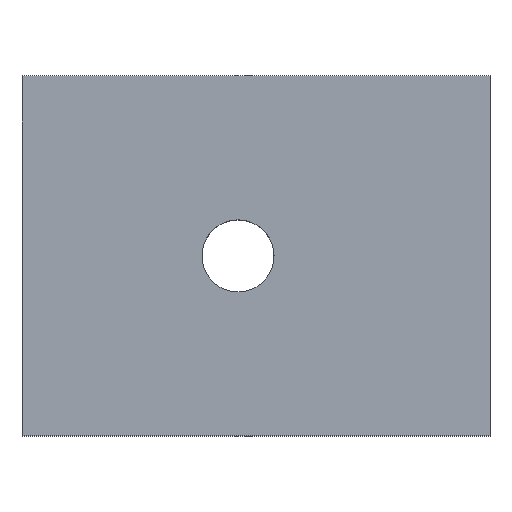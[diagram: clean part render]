
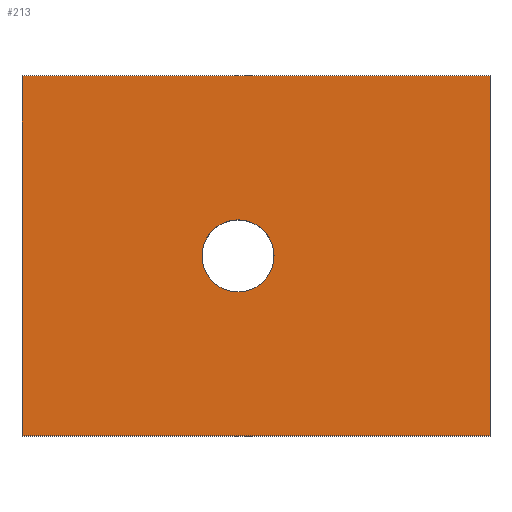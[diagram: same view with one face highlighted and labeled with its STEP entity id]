
A CAD part, top view. The second image highlights one B-rep face of the part: STEP entity #213.
In plain terms, the highlighted planar face has unit normal (0, 0, 1).
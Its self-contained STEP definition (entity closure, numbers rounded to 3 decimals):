
#24 = VERTEX_POINT('',#25);
#25 = CARTESIAN_POINT('',(0.,0.,4.));
#32 = PLANE('',#33);
#33 = AXIS2_PLACEMENT_3D('',#34,#35,#36);
#34 = CARTESIAN_POINT('',(0.,0.,0.));
#35 = DIRECTION('',(1.,0.,-0.));
#36 = DIRECTION('',(0.,0.,1.));
#44 = PLANE('',#45);
#45 = AXIS2_PLACEMENT_3D('',#46,#47,#48);
#46 = CARTESIAN_POINT('',(0.,0.,0.));
#47 = DIRECTION('',(-0.,1.,0.));
#48 = DIRECTION('',(0.,0.,1.));
#85 = VERTEX_POINT('',#86);
#86 = CARTESIAN_POINT('',(0.,10.,4.));
#100 = PLANE('',#101);
#101 = AXIS2_PLACEMENT_3D('',#102,#103,#104);
#102 = CARTESIAN_POINT('',(0.,10.,0.));
#103 = DIRECTION('',(-0.,1.,0.));
#104 = DIRECTION('',(0.,0.,1.));
#112 = EDGE_CURVE('',#24,#85,#113,.T.);
#113 = SURFACE_CURVE('',#114,(#118,#125),.PCURVE_S1.);
#114 = LINE('',#115,#116);
#115 = CARTESIAN_POINT('',(0.,0.,4.));
#116 = VECTOR('',#117,1.);
#117 = DIRECTION('',(-0.,1.,0.));
#118 = PCURVE('',#32,#119);
#119 = DEFINITIONAL_REPRESENTATION('',(#120),#124);
#120 = LINE('',#121,#122);
#121 = CARTESIAN_POINT('',(4.,0.));
#122 = VECTOR('',#123,1.);
#123 = DIRECTION('',(0.,-1.));
#124 = ( GEOMETRIC_REPRESENTATION_CONTEXT(2) 
PARAMETRIC_REPRESENTATION_CONTEXT() REPRESENTATION_CONTEXT('2D SPACE',''
  ) );
#125 = PCURVE('',#126,#131);
#126 = PLANE('',#127);
#127 = AXIS2_PLACEMENT_3D('',#128,#129,#130);
#128 = CARTESIAN_POINT('',(0.,0.,4.));
#129 = DIRECTION('',(0.,0.,1.));
#130 = DIRECTION('',(1.,0.,-0.));
#131 = DEFINITIONAL_REPRESENTATION('',(#132),#136);
#132 = LINE('',#133,#134);
#133 = CARTESIAN_POINT('',(0.,0.));
#134 = VECTOR('',#135,1.);
#135 = DIRECTION('',(0.,1.));
#136 = ( GEOMETRIC_REPRESENTATION_CONTEXT(2) 
PARAMETRIC_REPRESENTATION_CONTEXT() REPRESENTATION_CONTEXT('2D SPACE',''
  ) );
#165 = EDGE_CURVE('',#24,#166,#168,.T.);
#166 = VERTEX_POINT('',#167);
#167 = CARTESIAN_POINT('',(13.,0.,4.));
#168 = SURFACE_CURVE('',#169,(#173,#180),.PCURVE_S1.);
#169 = LINE('',#170,#171);
#170 = CARTESIAN_POINT('',(0.,0.,4.));
#171 = VECTOR('',#172,1.);
#172 = DIRECTION('',(1.,0.,-0.));
#173 = PCURVE('',#44,#174);
#174 = DEFINITIONAL_REPRESENTATION('',(#175),#179);
#175 = LINE('',#176,#177);
#176 = CARTESIAN_POINT('',(4.,0.));
#177 = VECTOR('',#178,1.);
#178 = DIRECTION('',(0.,1.));
#179 = ( GEOMETRIC_REPRESENTATION_CONTEXT(2) 
PARAMETRIC_REPRESENTATION_CONTEXT() REPRESENTATION_CONTEXT('2D SPACE',''
  ) );
#180 = PCURVE('',#126,#181);
#181 = DEFINITIONAL_REPRESENTATION('',(#182),#186);
#182 = LINE('',#183,#184);
#183 = CARTESIAN_POINT('',(0.,0.));
#184 = VECTOR('',#185,1.);
#185 = DIRECTION('',(1.,0.));
#186 = ( GEOMETRIC_REPRESENTATION_CONTEXT(2) 
PARAMETRIC_REPRESENTATION_CONTEXT() REPRESENTATION_CONTEXT('2D SPACE',''
  ) );
#202 = PLANE('',#203);
#203 = AXIS2_PLACEMENT_3D('',#204,#205,#206);
#204 = CARTESIAN_POINT('',(13.,0.,0.));
#205 = DIRECTION('',(1.,0.,-0.));
#206 = DIRECTION('',(0.,0.,1.));
#213 = ADVANCED_FACE('',(#214,#262),#126,.T.);
#214 = FACE_BOUND('',#215,.T.);
#215 = EDGE_LOOP('',(#216,#217,#218,#241));
#216 = ORIENTED_EDGE('',*,*,#112,.F.);
#217 = ORIENTED_EDGE('',*,*,#165,.T.);
#218 = ORIENTED_EDGE('',*,*,#219,.T.);
#219 = EDGE_CURVE('',#166,#220,#222,.T.);
#220 = VERTEX_POINT('',#221);
#221 = CARTESIAN_POINT('',(13.,10.,4.));
#222 = SURFACE_CURVE('',#223,(#227,#234),.PCURVE_S1.);
#223 = LINE('',#224,#225);
#224 = CARTESIAN_POINT('',(13.,0.,4.));
#225 = VECTOR('',#226,1.);
#226 = DIRECTION('',(-0.,1.,0.));
#227 = PCURVE('',#126,#228);
#228 = DEFINITIONAL_REPRESENTATION('',(#229),#233);
#229 = LINE('',#230,#231);
#230 = CARTESIAN_POINT('',(13.,0.));
#231 = VECTOR('',#232,1.);
#232 = DIRECTION('',(0.,1.));
#233 = ( GEOMETRIC_REPRESENTATION_CONTEXT(2) 
PARAMETRIC_REPRESENTATION_CONTEXT() REPRESENTATION_CONTEXT('2D SPACE',''
  ) );
#234 = PCURVE('',#202,#235);
#235 = DEFINITIONAL_REPRESENTATION('',(#236),#240);
#236 = LINE('',#237,#238);
#237 = CARTESIAN_POINT('',(4.,0.));
#238 = VECTOR('',#239,1.);
#239 = DIRECTION('',(0.,-1.));
#240 = ( GEOMETRIC_REPRESENTATION_CONTEXT(2) 
PARAMETRIC_REPRESENTATION_CONTEXT() REPRESENTATION_CONTEXT('2D SPACE',''
  ) );
#241 = ORIENTED_EDGE('',*,*,#242,.F.);
#242 = EDGE_CURVE('',#85,#220,#243,.T.);
#243 = SURFACE_CURVE('',#244,(#248,#255),.PCURVE_S1.);
#244 = LINE('',#245,#246);
#245 = CARTESIAN_POINT('',(0.,10.,4.));
#246 = VECTOR('',#247,1.);
#247 = DIRECTION('',(1.,0.,-0.));
#248 = PCURVE('',#126,#249);
#249 = DEFINITIONAL_REPRESENTATION('',(#250),#254);
#250 = LINE('',#251,#252);
#251 = CARTESIAN_POINT('',(0.,10.));
#252 = VECTOR('',#253,1.);
#253 = DIRECTION('',(1.,0.));
#254 = ( GEOMETRIC_REPRESENTATION_CONTEXT(2) 
PARAMETRIC_REPRESENTATION_CONTEXT() REPRESENTATION_CONTEXT('2D SPACE',''
  ) );
#255 = PCURVE('',#100,#256);
#256 = DEFINITIONAL_REPRESENTATION('',(#257),#261);
#257 = LINE('',#258,#259);
#258 = CARTESIAN_POINT('',(4.,0.));
#259 = VECTOR('',#260,1.);
#260 = DIRECTION('',(0.,1.));
#261 = ( GEOMETRIC_REPRESENTATION_CONTEXT(2) 
PARAMETRIC_REPRESENTATION_CONTEXT() REPRESENTATION_CONTEXT('2D SPACE',''
  ) );
#262 = FACE_BOUND('',#263,.T.);
#263 = EDGE_LOOP('',(#264));
#264 = ORIENTED_EDGE('',*,*,#265,.F.);
#265 = EDGE_CURVE('',#266,#266,#268,.T.);
#266 = VERTEX_POINT('',#267);
#267 = CARTESIAN_POINT('',(7.,5.,4.));
#268 = SURFACE_CURVE('',#269,(#274,#281),.PCURVE_S1.);
#269 = CIRCLE('',#270,1.);
#270 = AXIS2_PLACEMENT_3D('',#271,#272,#273);
#271 = CARTESIAN_POINT('',(6.,5.,4.));
#272 = DIRECTION('',(0.,0.,1.));
#273 = DIRECTION('',(1.,0.,-0.));
#274 = PCURVE('',#126,#275);
#275 = DEFINITIONAL_REPRESENTATION('',(#276),#280);
#276 = CIRCLE('',#277,1.);
#277 = AXIS2_PLACEMENT_2D('',#278,#279);
#278 = CARTESIAN_POINT('',(6.,5.));
#279 = DIRECTION('',(1.,0.));
#280 = ( GEOMETRIC_REPRESENTATION_CONTEXT(2) 
PARAMETRIC_REPRESENTATION_CONTEXT() REPRESENTATION_CONTEXT('2D SPACE',''
  ) );
#281 = PCURVE('',#282,#287);
#282 = CYLINDRICAL_SURFACE('',#283,1.);
#283 = AXIS2_PLACEMENT_3D('',#284,#285,#286);
#284 = CARTESIAN_POINT('',(6.,5.,-2.));
#285 = DIRECTION('',(0.,0.,1.));
#286 = DIRECTION('',(1.,0.,-0.));
#287 = DEFINITIONAL_REPRESENTATION('',(#288),#292);
#288 = LINE('',#289,#290);
#289 = CARTESIAN_POINT('',(0.,6.));
#290 = VECTOR('',#291,1.);
#291 = DIRECTION('',(1.,0.));
#292 = ( GEOMETRIC_REPRESENTATION_CONTEXT(2) 
PARAMETRIC_REPRESENTATION_CONTEXT() REPRESENTATION_CONTEXT('2D SPACE',''
  ) );
